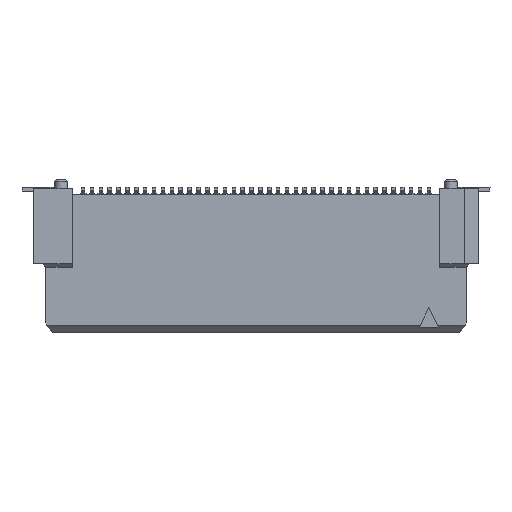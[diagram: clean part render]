
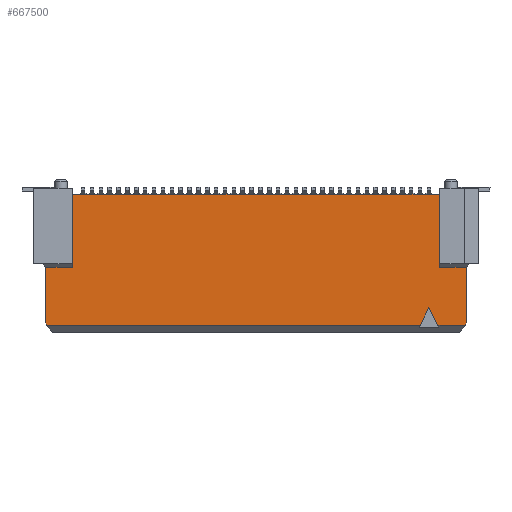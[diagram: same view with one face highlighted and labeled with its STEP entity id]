
A CAD part, front view. The second image highlights one B-rep face of the part: STEP entity #667500.
In plain terms, the highlighted planar face has unit normal (0, -1, 0).
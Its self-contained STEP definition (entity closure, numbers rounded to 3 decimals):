
#4230=CARTESIAN_POINT('',(23.522,1.44,
10.32));
#4240=VERTEX_POINT('',#4230);
#5030=CARTESIAN_POINT('',(23.522,1.44,
6.19));
#5040=VERTEX_POINT('',#5030);
#5070=CARTESIAN_POINT('',(23.522,1.44,
8.755));
#5080=DIRECTION('',(0.,0.,
1.));
#5090=VECTOR('',#5080,1.);
#5100=LINE('',#5070,#5090);
#5110=EDGE_CURVE('',#5040,#4240,#5100,.T.);
#8510=CARTESIAN_POINT('',(25.022,1.44,
6.19));
#8520=VERTEX_POINT('',#8510);
#8550=CARTESIAN_POINT('',(24.372,1.44,
6.19));
#8560=DIRECTION('',(-1.,0.,0.));
#8570=VECTOR('',#8560,1.);
#8580=LINE('',#8550,#8570);
#8590=EDGE_CURVE('',#8520,#5040,#8580,.T.);
#16530=CARTESIAN_POINT('',(25.022,1.44,
3.06));
#16540=VERTEX_POINT('',#16530);
#16570=CARTESIAN_POINT('',(25.022,1.44,
10.39));
#16580=DIRECTION('',(0.,0.,
1.));
#16590=VECTOR('',#16580,1.);
#16600=LINE('',#16570,#16590);
#16610=EDGE_CURVE('',#16540,#8520,#16600,.T.);
#23240=CARTESIAN_POINT('',(24.974,1.44,
2.91));
#23250=VERTEX_POINT('',#23240);
#23280=CARTESIAN_POINT('',(27.371,1.44,
10.39));
#23290=DIRECTION('',(-0.305,0.,
-0.952));
#23300=VECTOR('',#23290,1.);
#23310=LINE('',#23280,#23300);
#23320=EDGE_CURVE('',#16540,#23250,#23310,.T.);
#26220=CARTESIAN_POINT('',(22.912,1.44,
3.91));
#26230=VERTEX_POINT('',#26220);
#26260=CARTESIAN_POINT('',(20.49,1.44,
8.755));
#26270=DIRECTION('',(-0.447,0.,
0.894));
#26280=VECTOR('',#26270,1.);
#26290=LINE('',#26260,#26280);
#26300=CARTESIAN_POINT('',(23.412,1.44,
2.91));
#26310=VERTEX_POINT('',#26300);
#26320=EDGE_CURVE('',#26310,#26230,#26290,.T.);
#48090=CARTESIAN_POINT('',(22.412,1.44,
2.91));
#48100=VERTEX_POINT('',#48090);
#48130=CARTESIAN_POINT('',(25.335,1.44,
8.755));
#48140=DIRECTION('',(-0.447,0.,
-0.894));
#48150=VECTOR('',#48140,1.);
#48160=LINE('',#48130,#48150);
#48170=EDGE_CURVE('',#26230,#48100,#48160,.T.);
#467060=CARTESIAN_POINT('',(2.802,1.44,
8.755));
#467070=DIRECTION('',(0.,0.,
1.));
#467080=VECTOR('',#467070,1.);
#467090=LINE('',#467060,#467080);
#467100=CARTESIAN_POINT('',(2.802,1.44,
6.19));
#467110=VERTEX_POINT('',#467100);
#467120=CARTESIAN_POINT('',(2.802,1.44,
10.32));
#467130=VERTEX_POINT('',#467120);
#467140=EDGE_CURVE('',#467110,#467130,#467090,.T.);
#666210=CARTESIAN_POINT('',(-2.348,1.44,
2.91));
#666220=DIRECTION('',(1.,0.,0.));
#666230=VECTOR('',#666220,1.);
#666240=LINE('',#666210,#666230);
#666250=CARTESIAN_POINT('',(23.672,1.44,
2.91));
#666260=VERTEX_POINT('',#666250);
#666270=EDGE_CURVE('',#26310,#666260,#666240,.T.);
#666290=CARTESIAN_POINT('',(16.867,1.44,
2.91));
#666300=DIRECTION('',(-1.,0.,0.));
#666310=VECTOR('',#666300,1.);
#666320=LINE('',#666290,#666310);
#666330=EDGE_CURVE('',#23250,#666260,#666320,.T.);
#666510=CARTESIAN_POINT('',(1.351,1.44,
2.91));
#666520=VERTEX_POINT('',#666510);
#666550=CARTESIAN_POINT('',(9.458,1.44,
2.91));
#666560=DIRECTION('',(1.,0.,0.));
#666570=VECTOR('',#666560,1.);
#666580=LINE('',#666550,#666570);
#666590=CARTESIAN_POINT('',(2.652,1.44,
2.91));
#666600=VERTEX_POINT('',#666590);
#666610=EDGE_CURVE('',#666520,#666600,#666580,.T.);
#666630=CARTESIAN_POINT('',(6.152,1.44,
2.91));
#666640=DIRECTION('',(1.,0.,0.));
#666650=VECTOR('',#666640,1.);
#666660=LINE('',#666630,#666650);
#666670=EDGE_CURVE('',#666600,#48100,#666660,.T.);
#666720=CARTESIAN_POINT('',(7.172,1.44,
2.91));
#666730=DIRECTION('',(0.,1.,
0.));
#666740=DIRECTION('',(0.,0.,
1.));
#666750=AXIS2_PLACEMENT_3D('',#666720,#666730,#666740);
#666760=PLANE('',#666750);
#666770=CARTESIAN_POINT('',(-2.588,1.44,
10.32));
#666780=DIRECTION('',(1.,0.,0.));
#666790=VECTOR('',#666780,1.);
#666800=LINE('',#666770,#666790);
#666810=CARTESIAN_POINT('',(19.162,1.44,
10.32));
#666820=VERTEX_POINT('',#666810);
#666830=CARTESIAN_POINT('',(23.162,1.44,
10.32));
#666840=VERTEX_POINT('',#666830);
#666850=EDGE_CURVE('',#666820,#666840,#666800,.T.);
#666860=ORIENTED_EDGE('',*,*,#666850,.F.);
#666870=CARTESIAN_POINT('',(23.672,1.44,
10.32));
#666880=DIRECTION('',(-1.,0.,0.));
#666890=VECTOR('',#666880,1.);
#666900=LINE('',#666870,#666890);
#666910=EDGE_CURVE('',#4240,#666840,#666900,.T.);
#666920=ORIENTED_EDGE('',*,*,#666910,.T.);
#666930=ORIENTED_EDGE('',*,*,#5110,.T.);
#666940=ORIENTED_EDGE('',*,*,#8590,.T.);
#666950=ORIENTED_EDGE('',*,*,#16610,.T.);
#666960=ORIENTED_EDGE('',*,*,#23320,.F.);
#666970=ORIENTED_EDGE('',*,*,#666330,.F.);
#666980=ORIENTED_EDGE('',*,*,#666270,.T.);
#666990=ORIENTED_EDGE('',*,*,#26320,.F.);
#667000=ORIENTED_EDGE('',*,*,#48170,.F.);
#667010=ORIENTED_EDGE('',*,*,#666670,.T.);
#667020=ORIENTED_EDGE('',*,*,#666610,.T.);
#667030=CARTESIAN_POINT('',(-1.046,1.44,
10.39));
#667040=DIRECTION('',(0.305,0.,
-0.952));
#667050=VECTOR('',#667040,1.);
#667060=LINE('',#667030,#667050);
#667070=CARTESIAN_POINT('',(1.302,1.44,
3.06));
#667080=VERTEX_POINT('',#667070);
#667090=EDGE_CURVE('',#667080,#666520,#667060,.T.);
#667100=ORIENTED_EDGE('',*,*,#667090,.T.);
#667110=CARTESIAN_POINT('',(1.302,1.44,
10.39));
#667120=DIRECTION('',(0.,0.,
1.));
#667130=VECTOR('',#667120,1.);
#667140=LINE('',#667110,#667130);
#667150=CARTESIAN_POINT('',(1.302,1.44,
6.19));
#667160=VERTEX_POINT('',#667150);
#667170=EDGE_CURVE('',#667080,#667160,#667140,.T.);
#667180=ORIENTED_EDGE('',*,*,#667170,.F.);
#667190=CARTESIAN_POINT('',(1.952,1.44,
6.19));
#667200=DIRECTION('',(1.,0.,0.));
#667210=VECTOR('',#667200,1.);
#667220=LINE('',#667190,#667210);
#667230=EDGE_CURVE('',#667160,#467110,#667220,.T.);
#667240=ORIENTED_EDGE('',*,*,#667230,.F.);
#667250=ORIENTED_EDGE('',*,*,#467140,.F.);
#667260=CARTESIAN_POINT('',(2.652,1.44,
10.32));
#667270=DIRECTION('',(1.,0.,0.));
#667280=VECTOR('',#667270,1.);
#667290=LINE('',#667260,#667280);
#667300=CARTESIAN_POINT('',(3.162,1.44,
10.32));
#667310=VERTEX_POINT('',#667300);
#667320=EDGE_CURVE('',#467130,#667310,#667290,.T.);
#667330=ORIENTED_EDGE('',*,*,#667320,.F.);
#667340=CARTESIAN_POINT('',(-15.088,1.44,
10.32));
#667350=DIRECTION('',(1.,0.,0.));
#667360=VECTOR('',#667350,1.);
#667370=LINE('',#667340,#667360);
#667380=CARTESIAN_POINT('',(6.662,1.44,
10.32));
#667390=VERTEX_POINT('',#667380);
#667400=EDGE_CURVE('',#667310,#667390,#667370,.T.);
#667410=ORIENTED_EDGE('',*,*,#667400,.F.);
#667420=CARTESIAN_POINT('',(-9.,1.44,
10.32));
#667430=DIRECTION('',(1.,0.,0.));
#667440=VECTOR('',#667430,1.);
#667450=LINE('',#667420,#667440);
#667460=EDGE_CURVE('',#667390,#666820,#667450,.T.);
#667470=ORIENTED_EDGE('',*,*,#667460,.F.);
#667480=EDGE_LOOP('',(#667470,#667410,#667330,#667250,#667240,#667180,
#667100,#667020,#667010,#667000,#666990,#666980,#666970,#666960,#666950,
#666940,#666930,#666920,#666860));
#667490=FACE_OUTER_BOUND('',#667480,.T.);
#667500=ADVANCED_FACE('',(#667490),#666760,.F.);
